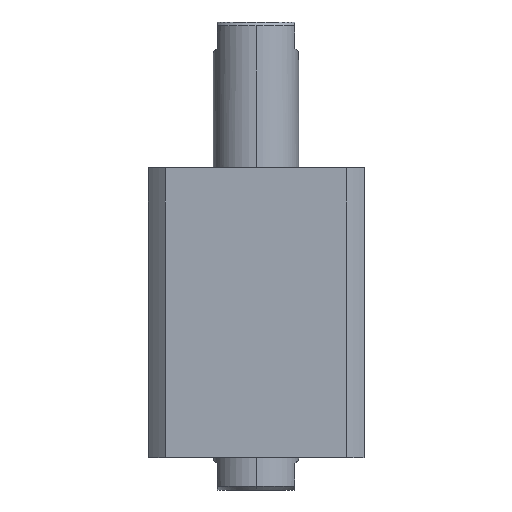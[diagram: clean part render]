
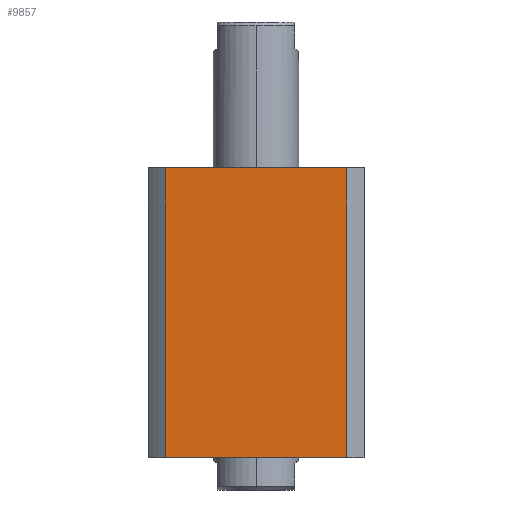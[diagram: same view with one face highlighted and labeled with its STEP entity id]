
A CAD part, front view. The second image highlights one B-rep face of the part: STEP entity #9857.
In plain terms, the highlighted planar face has unit normal (0, -1, 0) as drawn and (1, 0, 0) by its records, which use the part's own axes.
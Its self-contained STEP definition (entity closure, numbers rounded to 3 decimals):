
#222 = DIRECTION ( 'NONE',  ( 0., 0., -1. ) ) ;
#333 = DIRECTION ( 'NONE',  ( 0., 1., 0. ) ) ;
#2522 = VECTOR ( 'NONE', #13858, 1000. ) ;
#2819 = CARTESIAN_POINT ( 'NONE',  ( 57., 47.971, 153. ) ) ;
#3211 = ORIENTED_EDGE ( 'NONE', *, *, #15321, .F. ) ;
#3224 = VERTEX_POINT ( 'NONE', #11920 ) ;
#3277 = LINE ( 'NONE', #8786, #4058 ) ;
#3804 = CARTESIAN_POINT ( 'NONE',  ( 57., 57., 153. ) ) ;
#4058 = VECTOR ( 'NONE', #333, 1000. ) ;
#4163 = VERTEX_POINT ( 'NONE', #9214 ) ;
#4690 = EDGE_CURVE ( 'NONE', #10687, #3224, #10536, .T. ) ;
#5035 = DIRECTION ( 'NONE',  ( 0., -1., 0. ) ) ;
#5330 = EDGE_CURVE ( 'NONE', #4163, #8201, #7883, .T. ) ;
#6111 = LINE ( 'NONE', #9051, #2522 ) ;
#6916 = DIRECTION ( 'NONE',  ( 0., 0., 1. ) ) ;
#7484 = CARTESIAN_POINT ( 'NONE',  ( 57., 47.971, -147. ) ) ;
#7702 = VECTOR ( 'NONE', #222, 1000. ) ;
#7851 = ORIENTED_EDGE ( 'NONE', *, *, #10756, .T. ) ;
#7875 = CARTESIAN_POINT ( 'NONE',  ( 57., -47.971, 153. ) ) ;
#7883 = LINE ( 'NONE', #10682, #10353 ) ;
#8201 = VERTEX_POINT ( 'NONE', #7875 ) ;
#8612 = PLANE ( 'NONE',  #14184 ) ;
#8786 = CARTESIAN_POINT ( 'NONE',  ( 57., 57., 153. ) ) ;
#9051 = CARTESIAN_POINT ( 'NONE',  ( 57., 57., 0. ) ) ;
#9214 = CARTESIAN_POINT ( 'NONE',  ( 57., -47.971, 0. ) ) ;
#9743 = ORIENTED_EDGE ( 'NONE', *, *, #5330, .F. ) ;
#9857 = ADVANCED_FACE ( 'NONE', ( #9918 ), #8612, .F. ) ;
#9918 = FACE_OUTER_BOUND ( 'NONE', #15528, .T. ) ;
#10134 = ORIENTED_EDGE ( 'NONE', *, *, #4690, .F. ) ;
#10353 = VECTOR ( 'NONE', #6916, 1000. ) ;
#10536 = LINE ( 'NONE', #7484, #7702 ) ;
#10682 = CARTESIAN_POINT ( 'NONE',  ( 57., -47.971, -147. ) ) ;
#10687 = VERTEX_POINT ( 'NONE', #2819 ) ;
#10756 = EDGE_CURVE ( 'NONE', #4163, #3224, #6111, .T. ) ;
#11920 = CARTESIAN_POINT ( 'NONE',  ( 57., 47.971, 0. ) ) ;
#12291 = DIRECTION ( 'NONE',  ( -1., 0., 0. ) ) ;
#13858 = DIRECTION ( 'NONE',  ( 0., 1., 0. ) ) ;
#14184 = AXIS2_PLACEMENT_3D ( 'NONE', #3804, #12291, #5035 ) ;
#15321 = EDGE_CURVE ( 'NONE', #8201, #10687, #3277, .T. ) ;
#15528 = EDGE_LOOP ( 'NONE', ( #9743, #7851, #10134, #3211 ) ) ;
